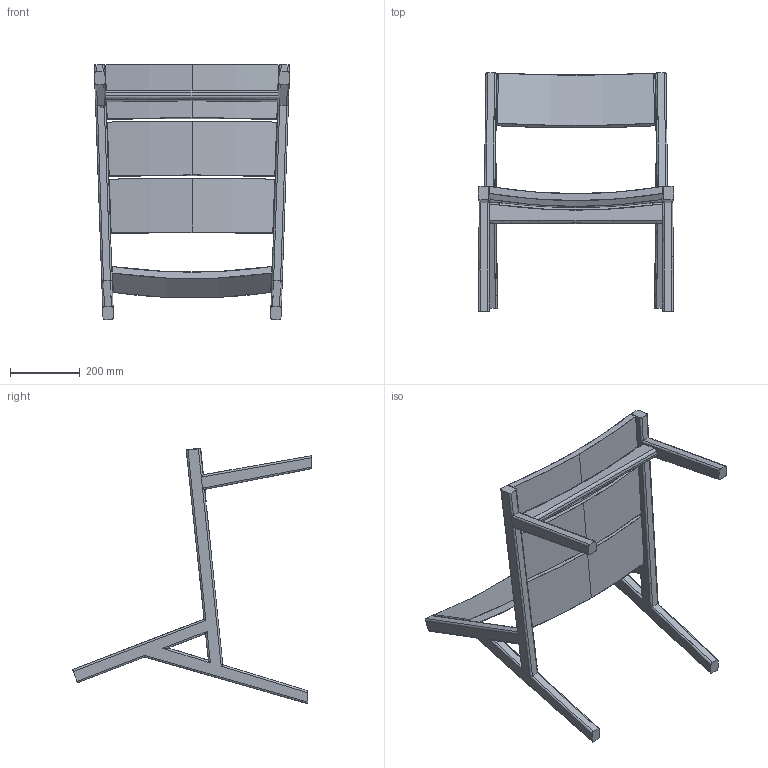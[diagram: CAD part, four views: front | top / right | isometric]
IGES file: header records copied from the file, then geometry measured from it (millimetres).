
Start section: SolidWorks IGES file using analytic representation for surfaces
Global section: file name: C:\Users\Utilizador\Desktop\Outdoor Files\576 Ourdoor Armless Lounge Chair\576 Outdoor Armless Lounge Chair_3D IGS.IGS; native system: SolidWorks 2016; preprocessor: SolidWorks 2016; author: Utilizador; date: 220124.120104; units: millimetre
Bounding box: 562.59 x 686.52 x 734.69 mm (x, y, z)
Surface area: 1199216.3 mm2 (no closed solid volume)
Topology: 0 solids, 0 shells, 209 faces, 2439 edges, 2434 vertices
Faces by surface type: bspline 133, revolution 76
